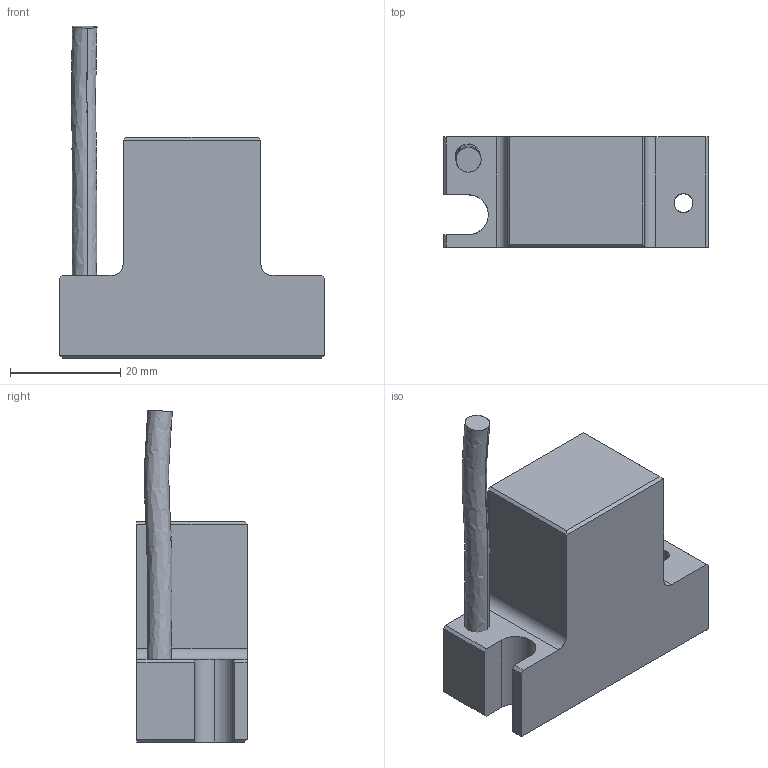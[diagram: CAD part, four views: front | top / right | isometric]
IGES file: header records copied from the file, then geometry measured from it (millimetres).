
Start section: SolidWorks IGES file using analytic representation for surfaces
Global section: file name: C:\Users\admin\Desktop\Y轴U型\FU700H（霍尔元件）.IGS; native system: SolidWorks 2016; preprocessor: SolidWorks 2016; author: admin; date: 201117.102528; units: millimetre
Bounding box: 48 x 20 x 60.19 mm (x, y, z)
Surface area: 7068.9 mm2 (no closed solid volume)
Topology: 0 solids, 0 shells, 33 faces, 378 edges, 378 vertices
Faces by surface type: bspline 27, revolution 6
